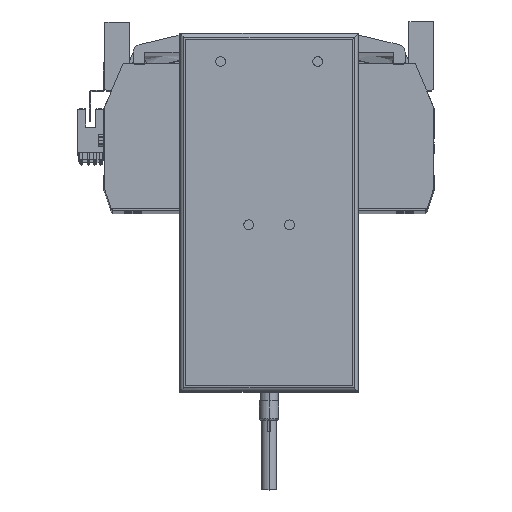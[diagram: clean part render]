
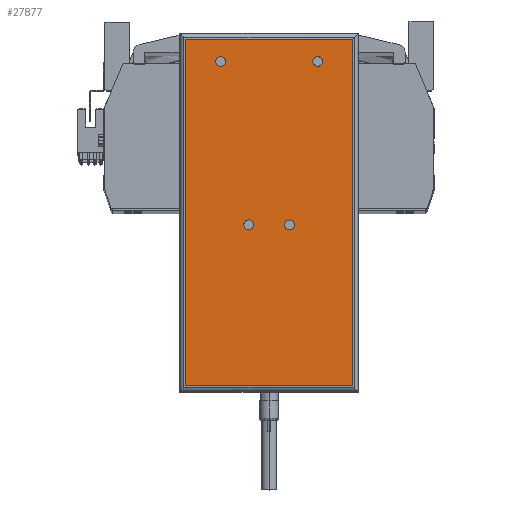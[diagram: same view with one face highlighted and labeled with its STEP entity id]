
A CAD part, top view. The second image highlights one B-rep face of the part: STEP entity #27877.
In plain terms, the highlighted planar face has unit normal (0, 0, 1) as drawn and (0, 0, -1) by its records, which use the part's own axes.
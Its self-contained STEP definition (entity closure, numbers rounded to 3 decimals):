
#72 = CARTESIAN_POINT ( 'NONE',  ( -13., -6.25, 0. ) ) ;
#241 = CIRCLE ( 'NONE', #16724, 2.5 ) ;
#457 = DIRECTION ( 'NONE',  ( -1., 0., 0. ) ) ;
#553 = ORIENTED_EDGE ( 'NONE', *, *, #24865, .T. ) ;
#1403 = CARTESIAN_POINT ( 'NONE',  ( 13., -6.25, 0. ) ) ;
#1480 = EDGE_CURVE ( 'NONE', #44846, #31219, #25555, .T. ) ;
#1775 = CARTESIAN_POINT ( 'NONE',  ( 22.5, 77.75, 0. ) ) ;
#3931 = VECTOR ( 'NONE', #29257, 1000. ) ;
#4171 = VERTEX_POINT ( 'NONE', #26161 ) ;
#4736 = EDGE_CURVE ( 'NONE', #31219, #44846, #45409, .T. ) ;
#5782 = CARTESIAN_POINT ( 'NONE',  ( -8., -6.25, 0. ) ) ;
#5826 = EDGE_CURVE ( 'NONE', #15084, #51760, #23324, .T. ) ;
#7123 = CIRCLE ( 'NONE', #8730, 2.5 ) ;
#7335 = CARTESIAN_POINT ( 'NONE',  ( -10.5, -6.25, 0. ) ) ;
#7533 = CARTESIAN_POINT ( 'NONE',  ( 8., -6.25, 0. ) ) ;
#7824 = ORIENTED_EDGE ( 'NONE', *, *, #16762, .F. ) ;
#8158 = VERTEX_POINT ( 'NONE', #48336 ) ;
#8239 = EDGE_CURVE ( 'NONE', #4171, #31024, #27539, .T. ) ;
#8730 = AXIS2_PLACEMENT_3D ( 'NONE', #41361, #40992, #21363 ) ;
#9004 = EDGE_CURVE ( 'NONE', #31024, #48126, #32519, .T. ) ;
#10031 = DIRECTION ( 'NONE',  ( 0., -1., 0. ) ) ;
#10597 = AXIS2_PLACEMENT_3D ( 'NONE', #7335, #11362, #22059 ) ;
#10847 = DIRECTION ( 'NONE',  ( -1., 0., 0. ) ) ;
#11362 = DIRECTION ( 'NONE',  ( 0., 0., -1. ) ) ;
#11410 = DIRECTION ( 'NONE',  ( 0., 1., 0. ) ) ;
#12558 = FACE_BOUND ( 'NONE', #24034, .T. ) ;
#13141 = CARTESIAN_POINT ( 'NONE',  ( 43., -89.25, 0. ) ) ;
#13290 = CARTESIAN_POINT ( 'NONE',  ( -46., 89.25, 0. ) ) ;
#13488 = EDGE_CURVE ( 'NONE', #16101, #28127, #49469, .T. ) ;
#13900 = CARTESIAN_POINT ( 'NONE',  ( 10.5, -6.25, 0. ) ) ;
#15084 = VERTEX_POINT ( 'NONE', #7533 ) ;
#15158 = LINE ( 'NONE', #13290, #3931 ) ;
#15562 = DIRECTION ( 'NONE',  ( 1., 0., 0. ) ) ;
#15600 = EDGE_LOOP ( 'NONE', ( #26079, #44100 ) ) ;
#15656 = FACE_BOUND ( 'NONE', #36847, .T. ) ;
#16065 = PLANE ( 'NONE',  #34036 ) ;
#16101 = VERTEX_POINT ( 'NONE', #51608 ) ;
#16685 = CARTESIAN_POINT ( 'NONE',  ( -10.5, -6.25, 0. ) ) ;
#16724 = AXIS2_PLACEMENT_3D ( 'NONE', #35757, #28367, #36453 ) ;
#16762 = EDGE_CURVE ( 'NONE', #8158, #20452, #30468, .T. ) ;
#17678 = AXIS2_PLACEMENT_3D ( 'NONE', #18809, #47350, #22851 ) ;
#18041 = CARTESIAN_POINT ( 'NONE',  ( 43., -92.25, 0. ) ) ;
#18421 = CARTESIAN_POINT ( 'NONE',  ( -43., -89.25, 0. ) ) ;
#18809 = CARTESIAN_POINT ( 'NONE',  ( 25., 77.75, 0. ) ) ;
#19103 = AXIS2_PLACEMENT_3D ( 'NONE', #49263, #37062, #49094 ) ;
#19144 = ORIENTED_EDGE ( 'NONE', *, *, #36530, .T. ) ;
#19997 = VECTOR ( 'NONE', #10031, 1000. ) ;
#20452 = VERTEX_POINT ( 'NONE', #21524 ) ;
#21363 = DIRECTION ( 'NONE',  ( -1., 0., 0. ) ) ;
#21524 = CARTESIAN_POINT ( 'NONE',  ( -27.5, 77.75, 0. ) ) ;
#22059 = DIRECTION ( 'NONE',  ( -1., 0., 0. ) ) ;
#22358 = DIRECTION ( 'NONE',  ( -1., 0., 0. ) ) ;
#22851 = DIRECTION ( 'NONE',  ( -1., 0., 0. ) ) ;
#23324 = CIRCLE ( 'NONE', #42601, 2.5 ) ;
#23478 = EDGE_LOOP ( 'NONE', ( #39779, #7824 ) ) ;
#23755 = ORIENTED_EDGE ( 'NONE', *, *, #13488, .F. ) ;
#23985 = ORIENTED_EDGE ( 'NONE', *, *, #38314, .F. ) ;
#24034 = EDGE_LOOP ( 'NONE', ( #51547, #41548 ) ) ;
#24865 = EDGE_CURVE ( 'NONE', #48126, #32721, #39358, .T. ) ;
#25555 = CIRCLE ( 'NONE', #10597, 2.5 ) ;
#25745 = FACE_BOUND ( 'NONE', #15600, .T. ) ;
#26079 = ORIENTED_EDGE ( 'NONE', *, *, #1480, .F. ) ;
#26161 = CARTESIAN_POINT ( 'NONE',  ( 43., 89.25, 0. ) ) ;
#27539 = LINE ( 'NONE', #18041, #19997 ) ;
#27877 = ADVANCED_FACE ( 'NONE', ( #51398, #25745, #12558, #38283, #15656 ), #16065, .F. ) ;
#28127 = VERTEX_POINT ( 'NONE', #1775 ) ;
#28367 = DIRECTION ( 'NONE',  ( 0., 0., -1. ) ) ;
#28639 = DIRECTION ( 'NONE',  ( 0., 0., -1. ) ) ;
#29257 = DIRECTION ( 'NONE',  ( 1., 0., 0. ) ) ;
#30468 = CIRCLE ( 'NONE', #19103, 2.5 ) ;
#30618 = CARTESIAN_POINT ( 'NONE',  ( -46., -89.25, 0. ) ) ;
#31024 = VERTEX_POINT ( 'NONE', #13141 ) ;
#31219 = VERTEX_POINT ( 'NONE', #5782 ) ;
#31735 = CARTESIAN_POINT ( 'NONE',  ( -46., -92.25, 0. ) ) ;
#32027 = CIRCLE ( 'NONE', #47394, 2.5 ) ;
#32519 = LINE ( 'NONE', #30618, #35607 ) ;
#32721 = VERTEX_POINT ( 'NONE', #38825 ) ;
#34036 = AXIS2_PLACEMENT_3D ( 'NONE', #31735, #43820, #15562 ) ;
#35607 = VECTOR ( 'NONE', #22358, 1000. ) ;
#35757 = CARTESIAN_POINT ( 'NONE',  ( -25., 77.75, 0. ) ) ;
#36453 = DIRECTION ( 'NONE',  ( -1., 0., 0. ) ) ;
#36530 = EDGE_CURVE ( 'NONE', #32721, #4171, #15158, .T. ) ;
#36847 = EDGE_LOOP ( 'NONE', ( #23985, #23755 ) ) ;
#37062 = DIRECTION ( 'NONE',  ( 0., 0., -1. ) ) ;
#38283 = FACE_BOUND ( 'NONE', #23478, .T. ) ;
#38314 = EDGE_CURVE ( 'NONE', #28127, #16101, #32027, .T. ) ;
#38825 = CARTESIAN_POINT ( 'NONE',  ( -43., 89.25, 0. ) ) ;
#39358 = LINE ( 'NONE', #39776, #39935 ) ;
#39776 = CARTESIAN_POINT ( 'NONE',  ( -43., -92.25, 0. ) ) ;
#39779 = ORIENTED_EDGE ( 'NONE', *, *, #43137, .F. ) ;
#39935 = VECTOR ( 'NONE', #11410, 1000. ) ;
#40192 = AXIS2_PLACEMENT_3D ( 'NONE', #16685, #28639, #457 ) ;
#40992 = DIRECTION ( 'NONE',  ( 0., 0., -1. ) ) ;
#41361 = CARTESIAN_POINT ( 'NONE',  ( 10.5, -6.25, 0. ) ) ;
#41548 = ORIENTED_EDGE ( 'NONE', *, *, #43287, .F. ) ;
#41971 = DIRECTION ( 'NONE',  ( 0., 0., -1. ) ) ;
#42601 = AXIS2_PLACEMENT_3D ( 'NONE', #13900, #41971, #49989 ) ;
#43137 = EDGE_CURVE ( 'NONE', #20452, #8158, #241, .T. ) ;
#43287 = EDGE_CURVE ( 'NONE', #51760, #15084, #7123, .T. ) ;
#43820 = DIRECTION ( 'NONE',  ( 0., 0., 1. ) ) ;
#44098 = EDGE_LOOP ( 'NONE', ( #48232, #45004, #553, #19144 ) ) ;
#44100 = ORIENTED_EDGE ( 'NONE', *, *, #4736, .F. ) ;
#44846 = VERTEX_POINT ( 'NONE', #72 ) ;
#45004 = ORIENTED_EDGE ( 'NONE', *, *, #9004, .T. ) ;
#45409 = CIRCLE ( 'NONE', #40192, 2.5 ) ;
#46570 = DIRECTION ( 'NONE',  ( 0., 0., -1. ) ) ;
#47350 = DIRECTION ( 'NONE',  ( 0., 0., -1. ) ) ;
#47394 = AXIS2_PLACEMENT_3D ( 'NONE', #50596, #46570, #10847 ) ;
#48126 = VERTEX_POINT ( 'NONE', #18421 ) ;
#48232 = ORIENTED_EDGE ( 'NONE', *, *, #8239, .T. ) ;
#48336 = CARTESIAN_POINT ( 'NONE',  ( -22.5, 77.75, 0. ) ) ;
#49094 = DIRECTION ( 'NONE',  ( -1., 0., 0. ) ) ;
#49263 = CARTESIAN_POINT ( 'NONE',  ( -25., 77.75, 0. ) ) ;
#49469 = CIRCLE ( 'NONE', #17678, 2.5 ) ;
#49989 = DIRECTION ( 'NONE',  ( -1., 0., 0. ) ) ;
#50596 = CARTESIAN_POINT ( 'NONE',  ( 25., 77.75, 0. ) ) ;
#51398 = FACE_OUTER_BOUND ( 'NONE', #44098, .T. ) ;
#51547 = ORIENTED_EDGE ( 'NONE', *, *, #5826, .F. ) ;
#51608 = CARTESIAN_POINT ( 'NONE',  ( 27.5, 77.75, 0. ) ) ;
#51760 = VERTEX_POINT ( 'NONE', #1403 ) ;
